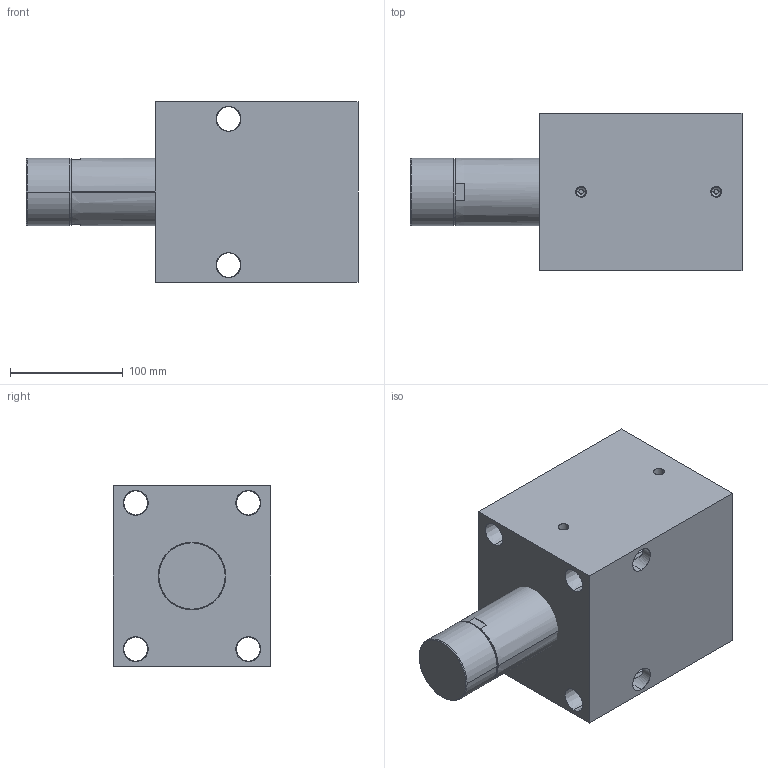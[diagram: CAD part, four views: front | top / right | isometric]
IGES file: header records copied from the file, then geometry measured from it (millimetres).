
Start section: SolidWorks IGES file using analytic representation for surfaces
Global section: file name: C:\Documents and Settings\rajib\Desktop\Rajib\BLOCK CYLINDER HYDRAULIC\0901-0906\IGES 0901-0908\0905.IGS; native system: SolidWorks 2007; preprocessor: SolidWorks 2007; author: rajib; date: 110121.165016; units: millimetre
Bounding box: 295 x 140 x 160 mm (x, y, z)
Surface area: 245993.6 mm2 (no closed solid volume)
Topology: 0 solids, 0 shells, 76 faces, 1968 edges, 1968 vertices
Faces by surface type: revolution 54, bspline 22
